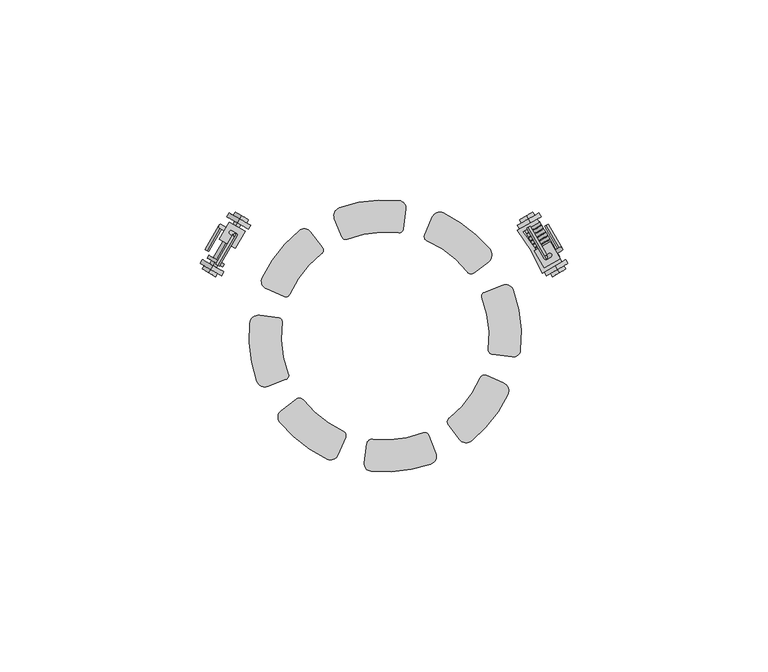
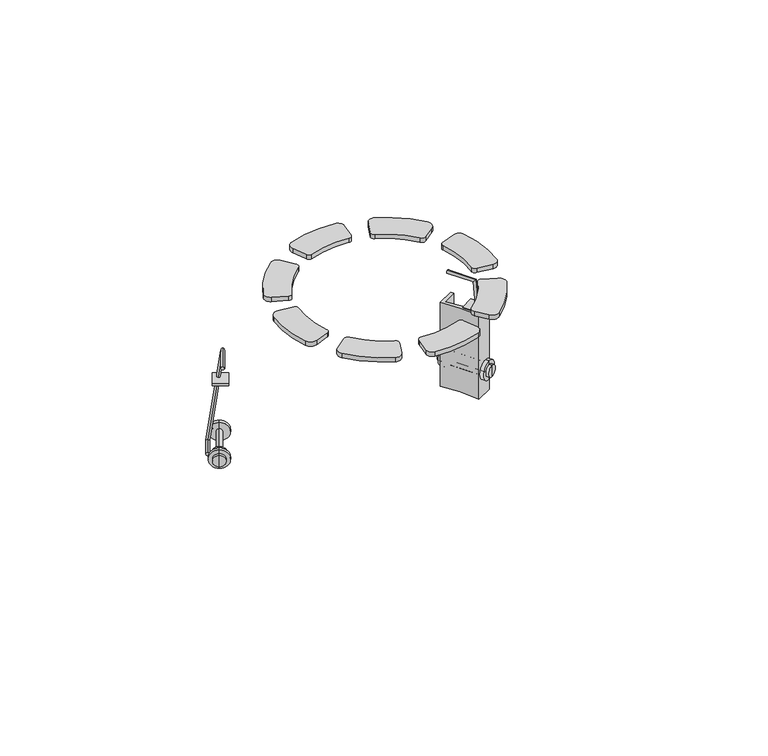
"""IFC4 building model written with IfcOpenShell, lengths in millimetres: proxy geometry, DL 10-165_T plus-EN54 : DL 10-165/T plus-EN54."""

from ifc_helpers import new_model, si_unit, point, frame, frame_2d, origin, origin_2d, place, context, project, spatial, polyline, circle_curve, ellipse_curve, trimmed, segment, composite_curve, outline, extrude, source, transform, mapped, element, save
from ifc_brep_helpers import plane_surface, cylinder_surface, advanced_brep


def communication_devices_f28cc3d0(model_context):
    return source(origin(), model_context, "Body", "SolidModel", [
        extrude(outline(composite_curve([segment(trimmed(circle_curve(frame_2d((-9.6046211, 25.1836603)), 1.0670948), [point((-9.2149894, 24.1902428))], [point((-10.5976813, 24.7931189))], False, "CARTESIAN"), True, "CONTINUOUS"), segment(polyline([(-10.5976813, 24.7931189), (-12.3808117, 29.3272239)]), True, "CONTINUOUS"), segment(trimmed(circle_curve(frame_2d((-10.4776477, 30.0756824)), 2.0450485), [point((-12.3808117, 29.3272239))], [point((-11.1660164, 32.0013957))], False, "CARTESIAN"), True, "CONTINUOUS"), segment(trimmed(circle_curve(frame_2d((0.278473, -0.014595)), 34.0), [point((-11.1660164, 32.0013957))], [point((3.7486598, 33.8078503))], False, "CARTESIAN"), True, "CONTINUOUS"), segment(trimmed(circle_curve(frame_2d((3.5503395, 31.8749055)), 1.943092), [point((3.7486598, 33.8078503))], [point((5.4769481, 31.6223477))], False, "CARTESIAN"), True, "CONTINUOUS"), segment(polyline([(5.4769481, 31.6223477), (4.8309882, 26.6947161)]), True, "CONTINUOUS"), segment(trimmed(circle_curve(frame_2d((3.765625, 26.8343738)), 1.074478), [point((4.8309882, 26.6947161))], [point((3.6272339, 25.7688454))], False, "CARTESIAN"), True, "CONTINUOUS"), segment(trimmed(circle_curve(frame_2d((0.278473, -0.014595)), 26.0), [point((3.6272339, 25.7688454))], [point((-9.2149894, 24.1902428))], True, "CARTESIAN"), True, "CONTINUOUS")], self_intersect=False)), frame((0.0, 0.0, 65.36998), z_axis=(0.0, 0.0, 1.0), x_axis=(1.0, 0.0, 0.0)), (0.0, 0.0, 1.0), 1.5),
        extrude(outline(composite_curve([segment(trimmed(circle_curve(frame_2d((-24.5669619, 10.9148068)), 1.1430923), [point((-23.5206321, 10.4545308))], [point((-25.0233493, 9.8667751))], False, "CARTESIAN"), True, "CONTINUOUS"), segment(polyline([(-25.0233493, 9.8667751), (-29.3698368, 11.7595442)]), True, "CONTINUOUS"), segment(trimmed(circle_curve(frame_2d((-28.5318516, 13.6838636)), 2.0988626), [point((-29.3698368, 11.7595442))], [point((-30.4273612, 14.5851224))], False, "CARTESIAN"), True, "CONTINUOUS"), segment(trimmed(circle_curve(frame_2d((0.278473, -0.014595)), 34.0), [point((-30.4273612, 14.5851224))], [point((-21.2232618, 26.3231232))], False, "CARTESIAN"), True, "CONTINUOUS"), segment(trimmed(circle_curve(frame_2d((-19.9649916, 24.7818539)), 1.9896621), [point((-21.2232618, 26.3231232))], [point((-18.3871604, 25.993961))], False, "CARTESIAN"), True, "CONTINUOUS"), segment(polyline([(-18.3871604, 25.993961), (-15.4244534, 22.1373286)]), True, "CONTINUOUS"), segment(trimmed(circle_curve(frame_2d((-16.3231097, 21.4469711)), 1.1332152), [point((-15.4244534, 22.1373286))], [point((-15.6297468, 20.5506316))], False, "CARTESIAN"), True, "CONTINUOUS"), segment(trimmed(circle_curve(frame_2d((0.278473, -0.014595)), 26.0), [point((-15.6297468, 20.5506316))], [point((-23.5206321, 10.4545308))], True, "CARTESIAN"), True, "CONTINUOUS")], self_intersect=False)), frame((0.0, 0.0, 65.36998), z_axis=(0.0, 0.0, 1.0), x_axis=(1.0, 0.0, 0.0)), (0.0, 0.0, 1.0), 1.5),
        extrude(outline(composite_curve([segment(polyline([(-31.0976405, 5.1496881), (-26.2771346, 4.5177722)]), True, "CONTINUOUS"), segment(trimmed(circle_curve(frame_2d((-26.396677, 3.6058549)), 0.9197193), [point((-26.2771346, 4.5177722))], [point((-25.4853135, 3.4821612))], False, "CARTESIAN"), True, "CONTINUOUS"), segment(trimmed(circle_curve(frame_2d((0.278473, -0.014595)), 26.0), [point((-25.4853135, 3.4821612))], [point((-23.9188911, -9.5270904))], True, "CARTESIAN"), True, "CONTINUOUS"), segment(trimmed(circle_curve(frame_2d((-24.8921868, -9.9097135)), 1.0458035), [point((-23.9188911, -9.5270904))], [point((-24.5094368, -10.8829593))], False, "CARTESIAN"), True, "CONTINUOUS"), segment(polyline([(-24.5094368, -10.8829593), (-28.9676417, -12.6362453)]), True, "CONTINUOUS"), segment(trimmed(circle_curve(frame_2d((-29.7525168, -10.6404876)), 2.1445461), [point((-28.9676417, -12.6362453))], [point((-31.7742379, -11.355835))], False, "CARTESIAN"), True, "CONTINUOUS"), segment(trimmed(circle_curve(frame_2d((0.278473, -0.014595)), 34.0), [point((-31.7742379, -11.355835))], [point((-33.5714145, 3.1768177))], False, "CARTESIAN"), True, "CONTINUOUS"), segment(trimmed(circle_curve(frame_2d((-31.3833058, 2.9705199)), 2.1978123), [point((-33.5714145, 3.1768177))], [point((-31.0976405, 5.1496881))], False, "CARTESIAN"), True, "CONTINUOUS")], self_intersect=False)), frame((0.0, 0.0, 65.36998), z_axis=(0.0, 0.0, 1.0), x_axis=(1.0, 0.0, 0.0)), (0.0, 0.0, 1.0), 1.5),
        extrude(outline(composite_curve([segment(trimmed(circle_curve(frame_2d((-10.7111251, -24.8835452)), 1.1888939), [point((-10.2305808, -23.7960959))], [point((-9.6211006, -25.3582192))], False, "CARTESIAN"), True, "CONTINUOUS"), segment(polyline([(-9.6211006, -25.3582192), (-11.5470179, -29.780827)]), True, "CONTINUOUS"), segment(trimmed(circle_curve(frame_2d((-13.3570279, -28.9926202)), 1.9741849), [point((-11.5470179, -29.780827))], [point((-14.1975686, -30.7789286))], False, "CARTESIAN"), True, "CONTINUOUS"), segment(trimmed(circle_curve(frame_2d((0.278473, -0.014595)), 34.0), [point((-14.1975686, -30.7789286))], [point((-26.0299543, -21.5521587))], False, "CARTESIAN"), True, "CONTINUOUS"), segment(trimmed(circle_curve(frame_2d((-24.4576997, -20.2650223)), 2.0319215), [point((-26.0299543, -21.5521587))], [point((-25.6955463, -18.6536749))], False, "CARTESIAN"), True, "CONTINUOUS"), segment(polyline([(-25.6955463, -18.6536749), (-21.9567166, -15.7814837)]), True, "CONTINUOUS"), segment(trimmed(circle_curve(frame_2d((-21.2020565, -16.7638507)), 1.2387723), [point((-21.9567166, -15.7814837))], [point((-20.2251592, -16.0021235))], False, "CARTESIAN"), True, "CONTINUOUS"), segment(trimmed(circle_curve(frame_2d((0.278473, -0.014595)), 26.0), [point((-20.2251592, -16.0021235))], [point((-10.2305808, -23.7960959))], True, "CARTESIAN"), True, "CONTINUOUS")], self_intersect=False)), frame((0.0, 0.0, 65.36998), z_axis=(0.0, 0.0, 1.0), x_axis=(1.0, 0.0, 0.0)), (0.0, 0.0, 1.0), 1.5),
        extrude(outline(composite_curve([segment(trimmed(circle_curve(frame_2d((10.1722564, -25.1883209)), 1.0481686), [point((9.7888532, -24.2127906))], [point((11.1477035, -24.804706))], False, "CARTESIAN"), True, "CONTINUOUS"), segment(polyline([(11.1477035, -24.804706), (12.9390741, -29.3597615)]), True, "CONTINUOUS"), segment(trimmed(circle_curve(frame_2d((11.039155, -30.1069444)), 2.0415619), [point((12.9390741, -29.3597615))], [point((11.7265665, -32.0292972))], False, "CARTESIAN"), True, "CONTINUOUS"), segment(trimmed(circle_curve(frame_2d((0.278473, -0.014595)), 34.0), [point((11.7265665, -32.0292972))], [point((-3.2296539, -33.8331261))], False, "CARTESIAN"), True, "CONTINUOUS"), segment(trimmed(circle_curve(frame_2d((-3.032777, -31.935222)), 1.9080882), [point((-3.2296539, -33.8331261))], [point((-4.9246788, -31.6872143))], False, "CARTESIAN"), True, "CONTINUOUS"), segment(polyline([(-4.9246788, -31.6872143), (-4.3060005, -26.9676897)]), True, "CONTINUOUS"), segment(trimmed(circle_curve(frame_2d((-2.9954557, -27.1394878)), 1.3217573), [point((-4.3060005, -26.9676897))], [point((-2.8370714, -25.8272544))], False, "CARTESIAN"), True, "CONTINUOUS"), segment(trimmed(circle_curve(frame_2d((0.278473, -0.014595)), 26.0), [point((-2.8370714, -25.8272544))], [point((9.7888532, -24.2127906))], True, "CARTESIAN"), True, "CONTINUOUS")], self_intersect=False)), frame((0.0, 0.0, 65.36998), z_axis=(0.0, 0.0, 1.0), x_axis=(1.0, 0.0, 0.0)), (0.0, 0.0, 1.0), 1.5),
        extrude(outline(composite_curve([segment(polyline([(18.8313077, -25.8763325), (16.1370244, -22.3691103)]), True, "CONTINUOUS"), segment(trimmed(circle_curve(frame_2d((17.2399058, -21.5218657)), 1.3907447), [point((16.1370244, -22.3691103))], [point((16.3787017, -20.42985))], False, "CARTESIAN"), True, "CONTINUOUS"), segment(trimmed(circle_curve(frame_2d((0.278473, -0.014595)), 26.0), [point((16.3787017, -20.42985))], [point((24.1033645, -10.4249046))], True, "CARTESIAN"), True, "CONTINUOUS"), segment(trimmed(circle_curve(frame_2d((25.0893131, -10.8557159)), 1.0759614), [point((24.1033645, -10.4249046))], [point((25.5188981, -9.8692324))], False, "CARTESIAN"), True, "CONTINUOUS"), segment(polyline([(25.5188981, -9.8692324), (29.8190617, -11.7418292)]), True, "CONTINUOUS"), segment(trimmed(circle_curve(frame_2d((28.9357799, -13.7701655)), 2.2123143), [point((29.8190617, -11.7418292))], [point((30.9302306, -14.7275062))], False, "CARTESIAN"), True, "CONTINUOUS"), segment(trimmed(circle_curve(frame_2d((0.278473, -0.014595)), 34.0), [point((30.9302306, -14.7275062))], [point((21.932602, -26.2271626))], False, "CARTESIAN"), True, "CONTINUOUS"), segment(trimmed(circle_curve(frame_2d((20.5512678, -24.5550419)), 2.1688872), [point((21.932602, -26.2271626))], [point((18.8313077, -25.8763325))], False, "CARTESIAN"), True, "CONTINUOUS")], self_intersect=False)), frame((0.0, 0.0, 65.36998), z_axis=(0.0, 0.0, 1.0), x_axis=(1.0, 0.0, 0.0)), (0.0, 0.0, 1.0), 1.5),
        extrude(outline(composite_curve([segment(polyline([(32.0253902, -5.2274866), (27.0812376, -4.5793619)]), True, "CONTINUOUS"), segment(trimmed(circle_curve(frame_2d((27.2331818, -3.4202713)), 1.1690073), [point((27.0812376, -4.5793619))], [point((26.0733952, -3.2737345))], False, "CARTESIAN"), True, "CONTINUOUS"), segment(trimmed(circle_curve(frame_2d((0.278473, -0.014595)), 26.0), [point((26.0733952, -3.2737345))], [point((24.4345204, 9.6023367))], True, "CARTESIAN"), True, "CONTINUOUS"), segment(trimmed(circle_curve(frame_2d((25.2980689, 9.94613)), 0.9294675), [point((24.4345204, 9.6023367))], [point((24.9579158, 10.8111189))], False, "CARTESIAN"), True, "CONTINUOUS"), segment(polyline([(24.9579158, 10.8111189), (29.6524993, 12.6572433)]), True, "CONTINUOUS"), segment(trimmed(circle_curve(frame_2d((30.3886648, 10.7852188)), 2.0115704), [point((29.6524993, 12.6572433))], [point((32.2821235, 11.4643576))], False, "CARTESIAN"), True, "CONTINUOUS"), segment(trimmed(circle_curve(frame_2d((0.278473, -0.014595)), 34.0), [point((32.2821235, 11.4643576))], [point((34.08873, -3.601588))], False, "CARTESIAN"), True, "CONTINUOUS"), segment(trimmed(circle_curve(frame_2d((32.2639066, -3.4079891)), 1.8350644), [point((34.08873, -3.601588))], [point((32.0253902, -5.2274866))], False, "CARTESIAN"), True, "CONTINUOUS")], self_intersect=False)), frame((0.0, 0.0, 65.36998), z_axis=(0.0, 0.0, 1.0), x_axis=(1.0, 0.0, 0.0)), (0.0, 0.0, 1.0), 1.5),
        extrude(outline(composite_curve([segment(polyline([(26.0289584, 18.4528988), (22.5208352, 15.7578106)]), True, "CONTINUOUS"), segment(trimmed(circle_curve(frame_2d((21.7606166, 16.7473666)), 1.2478595), [point((22.5208352, 15.7578106))], [point((20.7768073, 15.9797256))], False, "CARTESIAN"), True, "CONTINUOUS"), segment(trimmed(circle_curve(frame_2d((0.278473, -0.014595)), 26.0), [point((20.7768073, 15.9797256))], [point((10.7282328, 23.7930198))], True, "CARTESIAN"), True, "CONTINUOUS"), segment(trimmed(circle_curve(frame_2d((11.1787561, 24.8194439)), 1.120945), [point((10.7282328, 23.7930198))], [point((10.1510298, 25.2669888))], False, "CARTESIAN"), True, "CONTINUOUS"), segment(polyline([(10.1510298, 25.2669888), (12.0915127, 29.7230446)]), True, "CONTINUOUS"), segment(trimmed(circle_curve(frame_2d((13.9292815, 28.9227496)), 2.0044615), [point((12.0915127, 29.7230446))], [point((14.7844794, 30.7356209))], False, "CARTESIAN"), True, "CONTINUOUS"), segment(trimmed(circle_curve(frame_2d((0.278473, -0.014595)), 34.0), [point((14.7844794, 30.7356209))], [point((26.3951001, 21.7551498))], False, "CARTESIAN"), True, "CONTINUOUS"), segment(trimmed(circle_curve(frame_2d((24.62534, 20.2799507)), 2.3039668), [point((26.3951001, 21.7551498))], [point((26.0289584, 18.4528988))], False, "CARTESIAN"), True, "CONTINUOUS")], self_intersect=False)), frame((0.0, 0.0, 65.36998), z_axis=(0.0, 0.0, 1.0), x_axis=(1.0, 0.0, 0.0)), (0.0, 0.0, 1.0), 1.5),
        extrude(outline(polyline([(41.4940919, 23.5987156), (43.9940919, 19.2685886), (40.0407081, 16.9861014), (37.5407081, 21.3162284), (41.4940919, 23.5987156)])), frame((0.0, 0.0, 33.4827769), z_axis=(0.0, 0.0, 1.0), x_axis=(1.0, 0.0, 0.0)), (0.0, 0.0, 1.0), 0.7602318),
        advanced_brep(
        [(36.0514917, 27.1206034, 43.8165144), (36.1691576, 27.1885379, 42.8257876), (40.2794096, 20.0693727, 42.8257876), (40.6617436, 19.1354129, 43.8165144), (44.3870309, 21.2862085, 12.4502375), (43.769365, 22.0842994, 13.4409643), (40.6950493, 27.6809081, 12.4502375), (40.5773834, 27.6129737, 13.4409643)],
        [
            (0, 1, circle_curve(frame((36.1103247, 27.1545707, 43.321151), z_axis=(-0.4999999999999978, 0.8660254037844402, 0.0), x_axis=(0.11766592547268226, 0.06793445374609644, -0.9907268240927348)), 0.5)),
            (1, 0, circle_curve(frame((36.1103247, 27.1545707, 43.321151), z_axis=(-0.4999999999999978, 0.8660254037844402, 0.0), x_axis=(0.11766592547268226, 0.06793445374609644, -0.9907268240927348)), 0.5)),
            (2, 3, ellipse_curve(frame((40.4705766, 19.6023928, 43.321151), z_axis=(0.4367557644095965, -0.5643355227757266, -0.7005496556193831), x_axis=(0.2703510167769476, -0.6604093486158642, 0.7005496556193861)), 0.7071068, 0.5)),
            (3, 4),
            (4, 5, ellipse_curve(frame((44.0781979, 21.685254, 12.9456009), z_axis=(0.27035101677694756, -0.6604093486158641, 0.7005496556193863), x_axis=(-0.43675576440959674, 0.564335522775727, 0.7005496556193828)), 0.7071068, 0.5)),
            (5, 2),
            (3, 2, ellipse_curve(frame((40.4705766, 19.6023928, 43.321151), z_axis=(0.4367557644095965, -0.5643355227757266, -0.7005496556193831), x_axis=(0.2703510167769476, -0.6604093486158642, 0.7005496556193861)), 0.7071068, 0.5)),
            (5, 4, ellipse_curve(frame((44.0781979, 21.685254, 12.9456009), z_axis=(0.27035101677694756, -0.6604093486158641, 0.7005496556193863), x_axis=(-0.43675576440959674, 0.564335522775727, 0.7005496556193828)), 0.7071068, 0.5)),
            (6, 7, circle_curve(frame((40.6362164, 27.6469409, 12.9456009), z_axis=(-0.49999999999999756, 0.8660254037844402, 0.0), x_axis=(-0.11766592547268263, -0.06793445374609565, 0.9907268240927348)), 0.5)),
            (7, 6, circle_curve(frame((40.6362164, 27.6469409, 12.9456009), z_axis=(-0.49999999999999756, 0.8660254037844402, 0.0), x_axis=(-0.11766592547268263, -0.06793445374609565, 0.9907268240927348)), 0.5)),
            (4, 6),
            (7, 5),
            (0, 3),
            (2, 1),
        ],
        [
            plane_surface(frame((-2.4099743, 4.9148656, 36.0923621), z_axis=(-0.49999999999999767, 0.86602540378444, 0.0), x_axis=(0.8579945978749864, 0.49536341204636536, 0.13586890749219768))),
            cylinder_surface(frame((40.6021725, 19.6783698, 42.2131358), z_axis=(-0.1176659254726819, -0.06793445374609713, 0.990726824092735), x_axis=(-0.4999999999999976, 0.86602540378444, 0.0)), 0.5),
            plane_surface(frame((1.8527254, 5.255282, 7.9328424), z_axis=(-0.4999999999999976, 0.8660254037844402, 0.0), x_axis=(0.8579945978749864, 0.4953634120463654, 0.13586890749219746))),
            cylinder_surface(frame((43.5190048, 22.6538048, 12.9456009), z_axis=(0.49999999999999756, -0.8660254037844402, 0.0), x_axis=(-0.11766592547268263, -0.06793445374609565, 0.9907268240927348)), 0.5),
            cylinder_surface(frame((36.1103247, 27.1545707, 43.321151), z_axis=(-0.49999999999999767, 0.8660254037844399, 0.0), x_axis=(0.11766592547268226, 0.06793445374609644, -0.9907268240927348)), 0.5),
        ],
        [
            (0, [[1, 2]]),
            (1, [[3, 4, 5, 6]]),
            (1, [[7, -6, 8, -4]]),
            (2, [[9, 10]]),
            (3, [[-5, 11, -10, 12]]),
            (3, [[-8, -12, -9, -11]]),
            (4, [[-1, 13, -3, 14]]),
            (4, [[-2, -14, -7, -13]]),
        ],
    ),
        advanced_brep(
        [(43.28029, 16.5988388, 10.6517111), (43.28029, 16.5988388, 16.869995), (42.7304073, 17.5512635, 16.869995), (42.7304073, 17.5512635, 10.6517111), (43.28029, 16.5988388, 11.8431266), (43.28029, 16.5988388, 15.6785795), (43.753154, 15.7798143, 11.8431266), (43.753154, 15.7798143, 15.6785795), (43.753154, 15.7798143, 13.760853), (35.542297, 30.0014357, 11.8431266), (35.542297, 30.0014357, 15.6785795), (35.542297, 30.0014357, 13.760853), (36.0151611, 29.1824112, 11.8431266), (36.0151611, 29.1824112, 15.6785795), (36.0151611, 29.1824112, 10.6517111), (36.0151611, 29.1824112, 16.869995), (36.5650437, 28.2299865, 10.6517111), (36.5650437, 28.2299865, 16.869995), (36.5650437, 28.2299865, 12.8676654), (36.5650437, 28.2299865, 14.6540407), (42.7304073, 17.5512635, 12.8676654), (42.7304073, 17.5512635, 14.6540407)],
        [
            (0, 1, circle_curve(frame((43.28029, 16.5988388, 13.760853), z_axis=(-0.4999999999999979, 0.8660254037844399, 0.0), x_axis=(0.0, 0.0, 1.0)), 3.109142)),
            (1, 2),
            (2, 3, circle_curve(frame((42.7304073, 17.5512635, 13.760853), z_axis=(0.4999999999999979, -0.8660254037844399, 0.0), x_axis=(0.0, 0.0, 1.0)), 3.109142)),
            (3, 0),
            (1, 0, circle_curve(frame((43.28029, 16.5988388, 13.760853), z_axis=(-0.4999999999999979, 0.8660254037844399, 0.0), x_axis=(0.0, 0.0, 1.0)), 3.109142)),
            (3, 2, circle_curve(frame((42.7304073, 17.5512635, 13.760853), z_axis=(0.4999999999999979, -0.8660254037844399, 0.0), x_axis=(0.0, 0.0, 1.0)), 3.109142)),
            (4, 5, circle_curve(frame((43.28029, 16.5988388, 13.760853), z_axis=(-0.4999999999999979, 0.8660254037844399, 0.0), x_axis=(0.0, 0.0, 1.0)), 1.9177265)),
            (5, 1),
            (0, 4),
            (5, 4, circle_curve(frame((43.28029, 16.5988388, 13.760853), z_axis=(-0.4999999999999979, 0.8660254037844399, 0.0), x_axis=(0.0, 0.0, 1.0)), 1.9177265)),
            (6, 7, circle_curve(frame((43.753154, 15.7798143, 13.760853), z_axis=(-0.4999999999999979, 0.8660254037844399, 0.0), x_axis=(0.0, 0.0, 1.0)), 1.9177265)),
            (7, 5),
            (4, 6),
            (7, 6, circle_curve(frame((43.753154, 15.7798143, 13.760853), z_axis=(-0.4999999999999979, 0.8660254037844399, 0.0), x_axis=(0.0, 0.0, 1.0)), 1.9177265)),
            (8, 7),
            (6, 8),
            (9, 10, circle_curve(frame((35.542297, 30.0014357, 13.760853), z_axis=(-0.4999999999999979, 0.8660254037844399, 0.0), x_axis=(0.0, 0.0, 1.0)), 1.9177265)),
            (10, 11),
            (11, 9),
            (10, 9, circle_curve(frame((35.542297, 30.0014357, 13.760853), z_axis=(-0.4999999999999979, 0.8660254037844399, 0.0), x_axis=(0.0, 0.0, 1.0)), 1.9177265)),
            (12, 13, circle_curve(frame((36.0151611, 29.1824112, 13.760853), z_axis=(-0.4999999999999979, 0.8660254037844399, 0.0), x_axis=(0.0, 0.0, 1.0)), 1.9177265)),
            (13, 10),
            (9, 12),
            (13, 12, circle_curve(frame((36.0151611, 29.1824112, 13.760853), z_axis=(-0.4999999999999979, 0.8660254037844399, 0.0), x_axis=(0.0, 0.0, 1.0)), 1.9177265)),
            (14, 15, circle_curve(frame((36.0151611, 29.1824112, 13.760853), z_axis=(-0.4999999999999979, 0.8660254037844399, 0.0), x_axis=(0.0, 0.0, 1.0)), 3.109142)),
            (15, 13),
            (12, 14),
            (15, 14, circle_curve(frame((36.0151611, 29.1824112, 13.760853), z_axis=(-0.4999999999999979, 0.8660254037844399, 0.0), x_axis=(0.0, 0.0, 1.0)), 3.109142)),
            (16, 17, circle_curve(frame((36.5650437, 28.2299865, 13.760853), z_axis=(-0.4999999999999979, 0.8660254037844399, 0.0), x_axis=(0.0, 0.0, 1.0)), 3.109142)),
            (17, 15),
            (14, 16),
            (17, 16, circle_curve(frame((36.5650437, 28.2299865, 13.760853), z_axis=(-0.4999999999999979, 0.8660254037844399, 0.0), x_axis=(0.0, 0.0, 1.0)), 3.109142)),
            (18, 19, circle_curve(frame((36.5650437, 28.2299865, 13.760853), z_axis=(-0.4999999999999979, 0.8660254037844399, 0.0), x_axis=(0.0, 0.0, 1.0)), 0.8931877)),
            (19, 17),
            (16, 18),
            (19, 18, circle_curve(frame((36.5650437, 28.2299865, 13.760853), z_axis=(-0.4999999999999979, 0.8660254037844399, 0.0), x_axis=(0.0, 0.0, 1.0)), 0.8931877)),
            (20, 21, circle_curve(frame((42.7304073, 17.5512635, 13.760853), z_axis=(-0.4999999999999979, 0.8660254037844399, 0.0), x_axis=(0.0, 0.0, 1.0)), 0.8931877)),
            (21, 19),
            (18, 20),
            (21, 20, circle_curve(frame((42.7304073, 17.5512635, 13.760853), z_axis=(-0.4999999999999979, 0.8660254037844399, 0.0), x_axis=(0.0, 0.0, 1.0)), 0.8931877)),
            (2, 21),
            (20, 3),
        ],
        [
            cylinder_surface(frame((39.997901, 22.2841032, 13.760853), z_axis=(0.4999999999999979, -0.8660254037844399, 0.0), x_axis=(0.0, 0.0, 1.0)), 3.109142),
            plane_surface(frame((43.28029, 16.5988388, 13.760853), z_axis=(0.4999999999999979, -0.8660254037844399, 0.0), x_axis=(0.0, 0.0, 1.0))),
            cylinder_surface(frame((39.997901, 22.2841032, 13.760853), z_axis=(0.4999999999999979, -0.8660254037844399, 0.0), x_axis=(0.0, 0.0, 1.0)), 1.9177265),
            plane_surface(frame((43.753154, 15.7798143, 13.760853), z_axis=(0.4999999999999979, -0.8660254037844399, 0.0), x_axis=(0.0, 0.0, 1.0))),
            plane_surface(frame((35.542297, 30.0014357, 13.760853), z_axis=(-0.4999999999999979, 0.8660254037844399, 0.0), x_axis=(0.0, 0.0, 1.0))),
            plane_surface(frame((36.0151611, 29.1824112, 13.760853), z_axis=(-0.4999999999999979, 0.8660254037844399, 0.0), x_axis=(0.0, 0.0, 1.0))),
            plane_surface(frame((36.5650437, 28.2299865, 13.760853), z_axis=(0.4999999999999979, -0.8660254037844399, 0.0), x_axis=(0.0, 0.0, 1.0))),
            cylinder_surface(frame((39.997901, 22.2841032, 13.760853), z_axis=(0.4999999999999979, -0.8660254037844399, 0.0), x_axis=(0.0, 0.0, 1.0)), 0.8931877),
            plane_surface(frame((42.7304073, 17.5512635, 13.760853), z_axis=(-0.4999999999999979, 0.8660254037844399, 0.0), x_axis=(0.0, 0.0, 1.0))),
        ],
        [
            (0, [[1, 2, 3, 4]]),
            (0, [[5, -4, 6, -2]]),
            (1, [[7, 8, -1, 9]]),
            (1, [[10, -9, -5, -8]]),
            (2, [[11, 12, -7, 13]]),
            (2, [[14, -13, -10, -12]]),
            (3, [[15, -11, 16]]),
            (3, [[-16, -14, -15]]),
            (4, [[17, 18, 19]]),
            (4, [[20, -19, -18]]),
            (2, [[21, 22, -17, 23]]),
            (2, [[24, -23, -20, -22]]),
            (5, [[25, 26, -21, 27]]),
            (5, [[28, -27, -24, -26]]),
            (0, [[29, 30, -25, 31]]),
            (0, [[32, -31, -28, -30]]),
            (6, [[33, 34, -29, 35]]),
            (6, [[36, -35, -32, -34]]),
            (7, [[37, 38, -33, 39]]),
            (7, [[40, -39, -36, -38]]),
            (8, [[-3, 41, -37, 42]]),
            (8, [[-6, -42, -40, -41]]),
        ],
    ),
        extrude(outline(composite_curve([segment(trimmed(circle_curve(frame_2d((0.0, -2.2114931)), 2.2114931), [point((0.0, -4.4229862))], [point((0.0, 0.0))], False, "CARTESIAN"), True, "CONTINUOUS"), segment(trimmed(circle_curve(frame_2d((0.0, -2.2114931)), 2.2114931), [point((0.0, 0.0))], [point((0.0, -4.4229862))], False, "CARTESIAN"), True, "CONTINUOUS")], self_intersect=False), holes=[composite_curve([segment(trimmed(circle_curve(frame_2d((0.0, -2.2114931)), 1.6197878), [point((0.0, -3.8312809))], [point((0.0, -0.5917053))], True, "CARTESIAN"), True, "CONTINUOUS"), segment(trimmed(circle_curve(frame_2d((0.0, -2.2114931)), 1.6197878), [point((0.0, -0.5917053))], [point((0.0, -3.8312809))], True, "CARTESIAN"), True, "CONTINUOUS")], self_intersect=False)]), frame((39.3233693, 27.8431989, 13.8879558), z_axis=(-0.4999999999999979, 0.8660254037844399, 0.0), x_axis=(0.0, 0.0, 1.0)), (0.0, 0.0, 1.0), 0.7554192),
        extrude(outline(composite_curve([segment(trimmed(circle_curve(frame_2d((0.0, -2.211493)), 2.2114931), [point((0.0, -4.4229861))], [point((0.0, 0.0))], False, "CARTESIAN"), True, "CONTINUOUS"), segment(trimmed(circle_curve(frame_2d((0.0, -2.211493)), 2.2114931), [point((0.0, 0.0))], [point((0.0, -4.4229861))], False, "CARTESIAN"), True, "CONTINUOUS")], self_intersect=False), holes=[composite_curve([segment(trimmed(circle_curve(frame_2d((0.0, -2.211493)), 1.6197878), [point((0.0, -3.8312809))], [point((0.0, -0.5917052))], True, "CARTESIAN"), True, "CONTINUOUS"), segment(trimmed(circle_curve(frame_2d((0.0, -2.211493)), 1.6197878), [point((0.0, -0.5917052))], [point((0.0, -3.8312809))], True, "CARTESIAN"), True, "CONTINUOUS")], self_intersect=False)]), frame((39.8385276, 26.9509184, 13.8879558), z_axis=(-0.4999999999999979, 0.8660254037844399, 0.0), x_axis=(0.0, 0.0, 1.0)), (0.0, 0.0, 1.0), 0.7554192),
        extrude(outline(composite_curve([segment(trimmed(circle_curve(frame_2d((0.0, -2.211493)), 2.2114931), [point((0.0, -4.4229861))], [point((0.0, 0.0))], False, "CARTESIAN"), True, "CONTINUOUS"), segment(trimmed(circle_curve(frame_2d((0.0, -2.211493)), 2.2114931), [point((0.0, 0.0))], [point((0.0, -4.4229861))], False, "CARTESIAN"), True, "CONTINUOUS")], self_intersect=False), holes=[composite_curve([segment(trimmed(circle_curve(frame_2d((0.0, -2.211493)), 1.6197878), [point((0.0, -3.8312809))], [point((0.0, -0.5917052))], True, "CARTESIAN"), True, "CONTINUOUS"), segment(trimmed(circle_curve(frame_2d((0.0, -2.211493)), 1.6197878), [point((0.0, -0.5917052))], [point((0.0, -3.8312809))], True, "CARTESIAN"), True, "CONTINUOUS")], self_intersect=False)]), frame((40.353686, 26.0586379, 13.8879558), z_axis=(-0.4999999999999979, 0.8660254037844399, 0.0), x_axis=(0.0, 0.0, 1.0)), (0.0, 0.0, 1.0), 0.7554192),
        extrude(outline(composite_curve([segment(trimmed(circle_curve(frame_2d((0.0, -2.211493)), 2.2114931), [point((0.0, -4.4229861))], [point((0.0, 0.0))], False, "CARTESIAN"), True, "CONTINUOUS"), segment(trimmed(circle_curve(frame_2d((0.0, -2.211493)), 2.2114931), [point((0.0, 0.0))], [point((0.0, -4.4229861))], False, "CARTESIAN"), True, "CONTINUOUS")], self_intersect=False), holes=[composite_curve([segment(trimmed(circle_curve(frame_2d((0.0, -2.211493)), 1.6197878), [point((0.0, -3.8312809))], [point((0.0, -0.5917052))], True, "CARTESIAN"), True, "CONTINUOUS"), segment(trimmed(circle_curve(frame_2d((0.0, -2.211493)), 1.6197878), [point((0.0, -0.5917052))], [point((0.0, -3.8312809))], True, "CARTESIAN"), True, "CONTINUOUS")], self_intersect=False)]), frame((40.8688444, 25.1663573, 13.8879558), z_axis=(-0.4999999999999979, 0.8660254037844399, 0.0), x_axis=(0.0, 0.0, 1.0)), (0.0, 0.0, 1.0), 0.7554192),
        extrude(outline(composite_curve([segment(trimmed(circle_curve(frame_2d((0.0, -2.2114931)), 2.2114931), [point((0.0, -4.4229861))], [point((0.0, 0.0))], False, "CARTESIAN"), True, "CONTINUOUS"), segment(trimmed(circle_curve(frame_2d((0.0, -2.2114931)), 2.2114931), [point((0.0, 0.0))], [point((0.0, -4.4229861))], False, "CARTESIAN"), True, "CONTINUOUS")], self_intersect=False), holes=[composite_curve([segment(trimmed(circle_curve(frame_2d((0.0, -2.2114931)), 1.6197878), [point((0.0, -3.8312809))], [point((0.0, -0.5917052))], True, "CARTESIAN"), True, "CONTINUOUS"), segment(trimmed(circle_curve(frame_2d((0.0, -2.2114931)), 1.6197878), [point((0.0, -0.5917052))], [point((0.0, -3.8312809))], True, "CARTESIAN"), True, "CONTINUOUS")], self_intersect=False)]), frame((41.3840028, 24.2740768, 13.8879558), z_axis=(-0.4999999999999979, 0.8660254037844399, 0.0), x_axis=(0.0, 0.0, 1.0)), (0.0, 0.0, 1.0), 0.7554192),
        extrude(outline(composite_curve([segment(trimmed(circle_curve(frame_2d((0.0, -2.2114931)), 2.2114931), [point((0.0, -4.4229861))], [point((0.0, 0.0))], False, "CARTESIAN"), True, "CONTINUOUS"), segment(trimmed(circle_curve(frame_2d((0.0, -2.2114931)), 2.2114931), [point((0.0, 0.0))], [point((0.0, -4.4229861))], False, "CARTESIAN"), True, "CONTINUOUS")], self_intersect=False), holes=[composite_curve([segment(trimmed(circle_curve(frame_2d((0.0, -2.2114931)), 1.6197878), [point((0.0, -3.8312809))], [point((0.0, -0.5917052))], True, "CARTESIAN"), True, "CONTINUOUS"), segment(trimmed(circle_curve(frame_2d((0.0, -2.2114931)), 1.6197878), [point((0.0, -0.5917052))], [point((0.0, -3.8312809))], True, "CARTESIAN"), True, "CONTINUOUS")], self_intersect=False)]), frame((41.8991612, 23.3817963, 13.8879558), z_axis=(-0.4999999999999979, 0.8660254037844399, 0.0), x_axis=(0.0, 0.0, 1.0)), (0.0, 0.0, 1.0), 0.7554192),
        extrude(outline(composite_curve([segment(trimmed(circle_curve(frame_2d((0.0, -2.2114931)), 2.2114931), [point((0.0, -4.4229862))], [point((0.0, 0.0))], False, "CARTESIAN"), True, "CONTINUOUS"), segment(trimmed(circle_curve(frame_2d((0.0, -2.2114931)), 2.2114931), [point((0.0, 0.0))], [point((0.0, -4.4229862))], False, "CARTESIAN"), True, "CONTINUOUS")], self_intersect=False), holes=[composite_curve([segment(trimmed(circle_curve(frame_2d((0.0, -2.2114931)), 1.6197878), [point((0.0, -3.8312809))], [point((0.0, -0.5917053))], True, "CARTESIAN"), True, "CONTINUOUS"), segment(trimmed(circle_curve(frame_2d((0.0, -2.2114931)), 1.6197878), [point((0.0, -0.5917053))], [point((0.0, -3.8312809))], True, "CARTESIAN"), True, "CONTINUOUS")], self_intersect=False)]), frame((42.4143196, 22.4895158, 13.8879558), z_axis=(-0.4999999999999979, 0.8660254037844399, 0.0), x_axis=(0.0, 0.0, 1.0)), (0.0, 0.0, 1.0), 0.7554192),
        extrude(outline(composite_curve([segment(trimmed(circle_curve(frame_2d((0.0, -2.2114931)), 2.2114931), [point((0.0, -4.4229862))], [point((0.0, 0.0))], False, "CARTESIAN"), True, "CONTINUOUS"), segment(trimmed(circle_curve(frame_2d((0.0, -2.2114931)), 2.2114931), [point((0.0, 0.0))], [point((0.0, -4.4229862))], False, "CARTESIAN"), True, "CONTINUOUS")], self_intersect=False), holes=[composite_curve([segment(trimmed(circle_curve(frame_2d((0.0, -2.2114931)), 1.6197878), [point((0.0, -3.8312809))], [point((0.0, -0.5917053))], True, "CARTESIAN"), True, "CONTINUOUS"), segment(trimmed(circle_curve(frame_2d((0.0, -2.2114931)), 1.6197878), [point((0.0, -0.5917053))], [point((0.0, -3.8312809))], True, "CARTESIAN"), True, "CONTINUOUS")], self_intersect=False)]), frame((42.929478, 21.5972353, 13.8879558), z_axis=(-0.4999999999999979, 0.8660254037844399, 0.0), x_axis=(0.0, 0.0, 1.0)), (0.0, 0.0, 1.0), 0.7554192),
        extrude(outline(composite_curve([segment(trimmed(circle_curve(frame_2d((0.0, -2.2114931)), 2.2114931), [point((0.0, -4.4229862))], [point((0.0, 0.0))], False, "CARTESIAN"), True, "CONTINUOUS"), segment(trimmed(circle_curve(frame_2d((0.0, -2.2114931)), 2.2114931), [point((0.0, 0.0))], [point((0.0, -4.4229862))], False, "CARTESIAN"), True, "CONTINUOUS")], self_intersect=False), holes=[composite_curve([segment(trimmed(circle_curve(frame_2d((0.0, -2.2114931)), 1.6197878), [point((0.0, -3.8312809))], [point((0.0, -0.5917053))], True, "CARTESIAN"), True, "CONTINUOUS"), segment(trimmed(circle_curve(frame_2d((0.0, -2.2114931)), 1.6197878), [point((0.0, -0.5917053))], [point((0.0, -3.8312809))], True, "CARTESIAN"), True, "CONTINUOUS")], self_intersect=False)]), frame((43.4446364, 20.7049548, 13.8879558), z_axis=(-0.4999999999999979, 0.8660254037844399, 0.0), x_axis=(0.0, 0.0, 1.0)), (0.0, 0.0, 1.0), 0.7554192),
        extrude(outline(composite_curve([segment(trimmed(circle_curve(frame_2d((0.0, -2.2114931)), 2.2114931), [point((0.0, -4.4229862))], [point((0.0, 0.0))], False, "CARTESIAN"), True, "CONTINUOUS"), segment(trimmed(circle_curve(frame_2d((0.0, -2.2114931)), 2.2114931), [point((0.0, 0.0))], [point((0.0, -4.4229862))], False, "CARTESIAN"), True, "CONTINUOUS")], self_intersect=False), holes=[composite_curve([segment(trimmed(circle_curve(frame_2d((0.0, -2.2114931)), 1.6197878), [point((0.0, -3.8312809))], [point((0.0, -0.5917053))], True, "CARTESIAN"), True, "CONTINUOUS"), segment(trimmed(circle_curve(frame_2d((0.0, -2.2114931)), 1.6197878), [point((0.0, -0.5917053))], [point((0.0, -3.8312809))], True, "CARTESIAN"), True, "CONTINUOUS")], self_intersect=False)]), frame((43.9597948, 19.8126743, 13.8879558), z_axis=(-0.4999999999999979, 0.8660254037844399, 0.0), x_axis=(0.0, 0.0, 1.0)), (0.0, 0.0, 1.0), 0.7554192),
        extrude(outline(composite_curve([segment(trimmed(circle_curve(frame_2d((0.0, -2.2114931)), 2.2114931), [point((0.0, -4.4229862))], [point((0.0, 0.0))], False, "CARTESIAN"), True, "CONTINUOUS"), segment(trimmed(circle_curve(frame_2d((0.0, -2.2114931)), 2.2114931), [point((0.0, 0.0))], [point((0.0, -4.4229862))], False, "CARTESIAN"), True, "CONTINUOUS")], self_intersect=False), holes=[composite_curve([segment(trimmed(circle_curve(frame_2d((0.0, -2.2114931)), 1.6197878), [point((0.0, -3.8312809))], [point((0.0, -0.5917053))], True, "CARTESIAN"), True, "CONTINUOUS"), segment(trimmed(circle_curve(frame_2d((0.0, -2.2114931)), 1.6197878), [point((0.0, -0.5917053))], [point((0.0, -3.8312809))], True, "CARTESIAN"), True, "CONTINUOUS")], self_intersect=False)]), frame((43.9597948, 19.8126743, 13.8879558), z_axis=(-0.4999999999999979, 0.8660254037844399, 0.0), x_axis=(0.0, 0.0, 1.0)), (0.0, 0.0, 1.0), 0.7554192),
        extrude(outline(composite_curve([segment(trimmed(circle_curve(origin_2d(), 42.496521), [point((39.4963735, 15.6840932))], [point((33.3310099, 26.3628162))], True, "CARTESIAN"), True, "CONTINUOUS"), segment(polyline([(33.3310099, 26.3628162), (38.2564308, 29.2065092), (38.7341359, 28.3790997), (34.6936675, 26.0463342)]), True, "CONTINUOUS"), segment(trimmed(circle_curve(frame_2d((15.4315743, 8.9364402)), 25.7638644), [point((34.6936675, 26.0463342))], [point((39.9271096, 16.9205153))], False, "CARTESIAN"), True, "CONTINUOUS"), segment(polyline([(39.9271096, 16.9205153), (43.9940919, 19.2685886), (44.4217943, 18.5277863), (39.4963735, 15.6840932)]), True, "CONTINUOUS")], self_intersect=False)), frame((0.0, 0.0, 5.7345004), z_axis=(0.0, 0.0, 1.0), x_axis=(1.0, 0.0, 0.0)), (0.0, 0.0, 1.0), 28.5085083),
        extrude(outline(polyline([(-41.1841332, 24.1355799), (-38.6841332, 28.4657069), (-34.7307494, 26.1832197), (-37.2307494, 21.8530927), (-41.1841332, 24.1355799)])), frame((0.0, 0.0, 33.4827769), z_axis=(0.0, 0.0, 1.0), x_axis=(1.0, 0.0, 0.0)), (0.0, 0.0, 1.0), 0.7602318),
        advanced_brep(
        [(-41.5128774, 17.661206, 43.8165144), (-41.6305433, 17.7291404, 42.8257876), (-37.5202914, 24.8483056, 42.8257876), (-36.9026255, 25.6463965, 43.8165144), (-40.6279127, 27.7971921, 12.4502375), (-41.0102468, 26.8632322, 13.4409643), (-44.3198943, 21.4024925, 12.4502375), (-44.2022284, 21.334558, 13.4409643)],
        [
            (0, 1, circle_curve(frame((-41.5717104, 17.6951732, 43.321151), z_axis=(-0.50000000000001, -0.8660254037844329, 0.0), x_axis=(-0.11766592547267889, 0.06793445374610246, -0.9907268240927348)), 0.5)),
            (1, 0, circle_curve(frame((-41.5717104, 17.6951732, 43.321151), z_axis=(-0.50000000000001, -0.8660254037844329, 0.0), x_axis=(-0.11766592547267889, 0.06793445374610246, -0.9907268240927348)), 0.5)),
            (2, 3, ellipse_curve(frame((-37.2114585, 25.247351, 43.321151), z_axis=(0.27035101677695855, 0.6604093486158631, -0.7005496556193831), x_axis=(0.4367557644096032, 0.564335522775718, 0.7005496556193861)), 0.7071068, 0.5)),
            (3, 4),
            (4, 5, ellipse_curve(frame((-40.8190798, 27.3302122, 12.9456009), z_axis=(0.43675576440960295, 0.5643355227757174, 0.7005496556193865), x_axis=(-0.27035101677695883, -0.6604093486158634, 0.7005496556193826)), 0.7071068, 0.5)),
            (5, 2),
            (3, 2, ellipse_curve(frame((-37.2114585, 25.247351, 43.321151), z_axis=(0.27035101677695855, 0.6604093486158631, -0.7005496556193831), x_axis=(0.4367557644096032, 0.564335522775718, 0.7005496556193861)), 0.7071068, 0.5)),
            (5, 4, ellipse_curve(frame((-40.8190798, 27.3302122, 12.9456009), z_axis=(0.43675576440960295, 0.5643355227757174, 0.7005496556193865), x_axis=(-0.27035101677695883, -0.6604093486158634, 0.7005496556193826)), 0.7071068, 0.5)),
            (6, 7, circle_curve(frame((-44.2610613, 21.3685252, 12.9456009), z_axis=(-0.5000000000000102, -0.8660254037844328, 0.0), x_axis=(0.1176659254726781, -0.06793445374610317, 0.9907268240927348)), 0.5)),
            (7, 6, circle_curve(frame((-44.2610613, 21.3685252, 12.9456009), z_axis=(-0.5000000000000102, -0.8660254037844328, 0.0), x_axis=(0.1176659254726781, -0.06793445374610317, 0.9907268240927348)), 0.5)),
            (4, 6),
            (7, 5),
            (0, 3),
            (2, 1),
        ],
        [
            plane_surface(frame((-3.0514113, -4.5445318, 36.0923621), z_axis=(-0.50000000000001, -0.8660254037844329, 0.0), x_axis=(-0.8579945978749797, 0.495363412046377, 0.1358689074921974))),
            cylinder_surface(frame((-37.3430544, 25.323328, 42.2131358), z_axis=(0.11766592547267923, -0.06793445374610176, 0.9907268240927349), x_axis=(-0.5000000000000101, -0.8660254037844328, 0.0)), 0.5),
            plane_surface(frame((-5.4775704, -1.0231337, 7.9328424), z_axis=(-0.5000000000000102, -0.8660254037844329, 0.0), x_axis=(-0.8579945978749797, 0.49536341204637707, 0.1358689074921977))),
            cylinder_surface(frame((-41.3782729, 26.3616613, 12.9456009), z_axis=(0.5000000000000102, 0.8660254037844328, 0.0), x_axis=(0.1176659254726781, -0.06793445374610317, 0.9907268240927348)), 0.5),
            cylinder_surface(frame((-41.5717104, 17.6951732, 43.321151), z_axis=(-0.50000000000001, -0.8660254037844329, 0.0), x_axis=(-0.11766592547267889, 0.06793445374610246, -0.9907268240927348)), 0.5),
        ],
        [
            (0, [[1, 2]]),
            (1, [[3, 4, 5, 6]]),
            (1, [[7, -6, 8, -4]]),
            (2, [[9, 10]]),
            (3, [[-5, 11, -10, 12]]),
            (3, [[-8, -12, -9, -11]]),
            (4, [[-1, 13, -3, 14]]),
            (4, [[-2, -14, -7, -13]]),
        ],
    ),
        advanced_brep(
        [(-36.0151611, 29.1824112, 10.6517111), (-36.0151611, 29.1824112, 16.869995), (-36.5650437, 28.2299865, 16.869995), (-36.5650437, 28.2299865, 10.6517111), (-36.0151611, 29.1824112, 11.8431266), (-36.0151611, 29.1824112, 15.6785795), (-35.542297, 30.0014357, 11.8431266), (-35.542297, 30.0014357, 15.6785795), (-35.542297, 30.0014357, 13.760853), (-43.753154, 15.7798143, 11.8431266), (-43.753154, 15.7798143, 15.6785795), (-43.753154, 15.7798143, 13.760853), (-43.28029, 16.5988388, 11.8431266), (-43.28029, 16.5988388, 15.6785795), (-43.28029, 16.5988388, 10.6517111), (-43.28029, 16.5988388, 16.869995), (-42.7304073, 17.5512635, 10.6517111), (-42.7304073, 17.5512635, 16.869995), (-42.7304073, 17.5512635, 12.8676654), (-42.7304073, 17.5512635, 14.6540407), (-36.5650437, 28.2299865, 12.8676654), (-36.5650437, 28.2299865, 14.6540407)],
        [
            (0, 1, circle_curve(frame((-36.0151611, 29.1824112, 13.760853), z_axis=(-0.5000000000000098, -0.8660254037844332, 0.0), x_axis=(0.0, 0.0, 1.0000000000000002)), 3.109142)),
            (1, 2),
            (2, 3, circle_curve(frame((-36.5650437, 28.2299865, 13.760853), z_axis=(0.5000000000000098, 0.8660254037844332, 0.0), x_axis=(0.0, 0.0, 1.0000000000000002)), 3.109142)),
            (3, 0),
            (1, 0, circle_curve(frame((-36.0151611, 29.1824112, 13.760853), z_axis=(-0.5000000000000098, -0.8660254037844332, 0.0), x_axis=(0.0, 0.0, 1.0000000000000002)), 3.109142)),
            (3, 2, circle_curve(frame((-36.5650437, 28.2299865, 13.760853), z_axis=(0.5000000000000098, 0.8660254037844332, 0.0), x_axis=(0.0, 0.0, 1.0000000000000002)), 3.109142)),
            (4, 5, circle_curve(frame((-36.0151611, 29.1824112, 13.760853), z_axis=(-0.5000000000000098, -0.8660254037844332, 0.0), x_axis=(0.0, 0.0, 1.0000000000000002)), 1.9177265)),
            (5, 1),
            (0, 4),
            (5, 4, circle_curve(frame((-36.0151611, 29.1824112, 13.760853), z_axis=(-0.5000000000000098, -0.8660254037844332, 0.0), x_axis=(0.0, 0.0, 1.0000000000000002)), 1.9177265)),
            (6, 7, circle_curve(frame((-35.542297, 30.0014357, 13.760853), z_axis=(-0.5000000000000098, -0.8660254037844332, 0.0), x_axis=(0.0, 0.0, 1.0000000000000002)), 1.9177265)),
            (7, 5),
            (4, 6),
            (7, 6, circle_curve(frame((-35.542297, 30.0014357, 13.760853), z_axis=(-0.5000000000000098, -0.8660254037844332, 0.0), x_axis=(0.0, 0.0, 1.0000000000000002)), 1.9177265)),
            (8, 7),
            (6, 8),
            (9, 10, circle_curve(frame((-43.753154, 15.7798143, 13.760853), z_axis=(-0.5000000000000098, -0.8660254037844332, 0.0), x_axis=(0.0, 0.0, 1.0000000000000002)), 1.9177265)),
            (10, 11),
            (11, 9),
            (10, 9, circle_curve(frame((-43.753154, 15.7798143, 13.760853), z_axis=(-0.5000000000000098, -0.8660254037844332, 0.0), x_axis=(0.0, 0.0, 1.0000000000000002)), 1.9177265)),
            (12, 13, circle_curve(frame((-43.28029, 16.5988388, 13.760853), z_axis=(-0.5000000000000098, -0.8660254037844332, 0.0), x_axis=(0.0, 0.0, 1.0000000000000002)), 1.9177265)),
            (13, 10),
            (9, 12),
            (13, 12, circle_curve(frame((-43.28029, 16.5988388, 13.760853), z_axis=(-0.5000000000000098, -0.8660254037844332, 0.0), x_axis=(0.0, 0.0, 1.0000000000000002)), 1.9177265)),
            (14, 15, circle_curve(frame((-43.28029, 16.5988388, 13.760853), z_axis=(-0.5000000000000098, -0.8660254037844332, 0.0), x_axis=(0.0, 0.0, 1.0000000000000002)), 3.109142)),
            (15, 13),
            (12, 14),
            (15, 14, circle_curve(frame((-43.28029, 16.5988388, 13.760853), z_axis=(-0.5000000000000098, -0.8660254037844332, 0.0), x_axis=(0.0, 0.0, 1.0000000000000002)), 3.109142)),
            (16, 17, circle_curve(frame((-42.7304073, 17.5512635, 13.760853), z_axis=(-0.5000000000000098, -0.8660254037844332, 0.0), x_axis=(0.0, 0.0, 1.0000000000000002)), 3.109142)),
            (17, 15),
            (14, 16),
            (17, 16, circle_curve(frame((-42.7304073, 17.5512635, 13.760853), z_axis=(-0.5000000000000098, -0.8660254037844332, 0.0), x_axis=(0.0, 0.0, 1.0000000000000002)), 3.109142)),
            (18, 19, circle_curve(frame((-42.7304073, 17.5512635, 13.760853), z_axis=(-0.5000000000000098, -0.8660254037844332, 0.0), x_axis=(0.0, 0.0, 1.0000000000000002)), 0.8931877)),
            (19, 17),
            (16, 18),
            (19, 18, circle_curve(frame((-42.7304073, 17.5512635, 13.760853), z_axis=(-0.5000000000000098, -0.8660254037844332, 0.0), x_axis=(0.0, 0.0, 1.0000000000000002)), 0.8931877)),
            (20, 21, circle_curve(frame((-36.5650437, 28.2299865, 13.760853), z_axis=(-0.5000000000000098, -0.8660254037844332, 0.0), x_axis=(0.0, 0.0, 1.0000000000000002)), 0.8931877)),
            (21, 19),
            (18, 20),
            (21, 20, circle_curve(frame((-36.5650437, 28.2299865, 13.760853), z_axis=(-0.5000000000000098, -0.8660254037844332, 0.0), x_axis=(0.0, 0.0, 1.0000000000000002)), 0.8931877)),
            (2, 21),
            (20, 3),
        ],
        [
            cylinder_surface(frame((-39.29755, 23.4971468, 13.760853), z_axis=(0.5000000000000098, 0.8660254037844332, 0.0), x_axis=(0.0, 0.0, 1.0000000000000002)), 3.109142),
            plane_surface(frame((-36.0151611, 29.1824112, 13.760853), z_axis=(0.5000000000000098, 0.8660254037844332, 0.0), x_axis=(0.0, 0.0, 1.0))),
            cylinder_surface(frame((-39.29755, 23.4971468, 13.760853), z_axis=(0.5000000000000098, 0.8660254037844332, 0.0), x_axis=(0.0, 0.0, 1.0000000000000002)), 1.9177265),
            plane_surface(frame((-35.542297, 30.0014357, 13.760853), z_axis=(0.5000000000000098, 0.8660254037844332, 0.0), x_axis=(0.0, 0.0, 1.0))),
            plane_surface(frame((-43.753154, 15.7798143, 13.760853), z_axis=(-0.5000000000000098, -0.8660254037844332, 0.0), x_axis=(0.0, 0.0, 1.0))),
            plane_surface(frame((-43.28029, 16.5988388, 13.760853), z_axis=(-0.5000000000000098, -0.8660254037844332, 0.0), x_axis=(0.0, 0.0, 1.0))),
            plane_surface(frame((-42.7304073, 17.5512635, 13.760853), z_axis=(0.5000000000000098, 0.8660254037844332, 0.0), x_axis=(0.0, 0.0, 1.0))),
            cylinder_surface(frame((-39.29755, 23.4971468, 13.760853), z_axis=(0.5000000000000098, 0.8660254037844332, 0.0), x_axis=(0.0, 0.0, 1.0000000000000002)), 0.8931877),
            plane_surface(frame((-36.5650437, 28.2299865, 13.760853), z_axis=(-0.5000000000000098, -0.8660254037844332, 0.0), x_axis=(0.0, 0.0, 1.0))),
        ],
        [
            (0, [[1, 2, 3, 4]]),
            (0, [[5, -4, 6, -2]]),
            (1, [[7, 8, -1, 9]]),
            (1, [[10, -9, -5, -8]]),
            (2, [[11, 12, -7, 13]]),
            (2, [[14, -13, -10, -12]]),
            (3, [[15, -11, 16]]),
            (3, [[-16, -14, -15]]),
            (4, [[17, 18, 19]]),
            (4, [[20, -19, -18]]),
            (2, [[21, 22, -17, 23]]),
            (2, [[24, -23, -20, -22]]),
            (5, [[25, 26, -21, 27]]),
            (5, [[28, -27, -24, -26]]),
            (0, [[29, 30, -25, 31]]),
            (0, [[32, -31, -28, -30]]),
            (6, [[33, 34, -29, 35]]),
            (6, [[36, -35, -32, -34]]),
            (7, [[37, 38, -33, 39]]),
            (7, [[40, -39, -36, -38]]),
            (8, [[-3, 41, -37, 42]]),
            (8, [[-6, -42, -40, -41]]),
        ],
    ),
        extrude(outline(composite_curve([segment(trimmed(circle_curve(frame_2d((0.0, -2.2114931)), 2.2114931), [point((0.0, -4.4229862))], [point((0.0, 0.0))], False, "CARTESIAN"), True, "CONTINUOUS"), segment(trimmed(circle_curve(frame_2d((0.0, -2.2114931)), 2.2114931), [point((0.0, 0.0))], [point((0.0, -4.4229862))], False, "CARTESIAN"), True, "CONTINUOUS")], self_intersect=False), holes=[composite_curve([segment(trimmed(circle_curve(frame_2d((0.0, -2.2114931)), 1.6197878), [point((0.0, -3.8312809))], [point((0.0, -0.5917053))], True, "CARTESIAN"), True, "CONTINUOUS"), segment(trimmed(circle_curve(frame_2d((0.0, -2.2114931)), 1.6197878), [point((0.0, -0.5917053))], [point((0.0, -3.8312809))], True, "CARTESIAN"), True, "CONTINUOUS")], self_intersect=False)]), frame((-44.1523118, 19.4792251, 13.8879558), z_axis=(0.5000000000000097, 0.866025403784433, 0.0), x_axis=(0.0, 0.0, -1.0)), (0.0, 0.0, 1.0), 0.7554192),
    ])


if __name__ == "__main__":
    model = new_model("IFC4")
    model_context = context("Model", 3, world=origin())
    ifc_project = project(units=[si_unit("LENGTHUNIT", "METRE", prefix="MILLI")], contexts=[model_context])
    site = spatial("IfcSite", under=ifc_project)
    building = spatial("IfcBuilding", under=site)
    placement = place(None, origin())
    communication_devices_shape = communication_devices_f28cc3d0(model_context)
    element("IfcBuildingElementProxy", 1, Name="DL 10-165_T plus-EN54 : DL 10-165/T plus-EN54", ObjectType="DL 10-165_T plus-EN54 : DL 10-165/T plus-EN54", at=placement, inside=building, context=model_context, shape_type="MappedRepresentation", body=[
        mapped(communication_devices_shape, transform((0.0, 0.0, 0.0), x_axis=(1.0, 0.0, 0.0), y_axis=(0.0, 1.0, 0.0), z_axis=(0.0, 0.0, 1.0))),
    ])
    save(model, "model.ifc")
